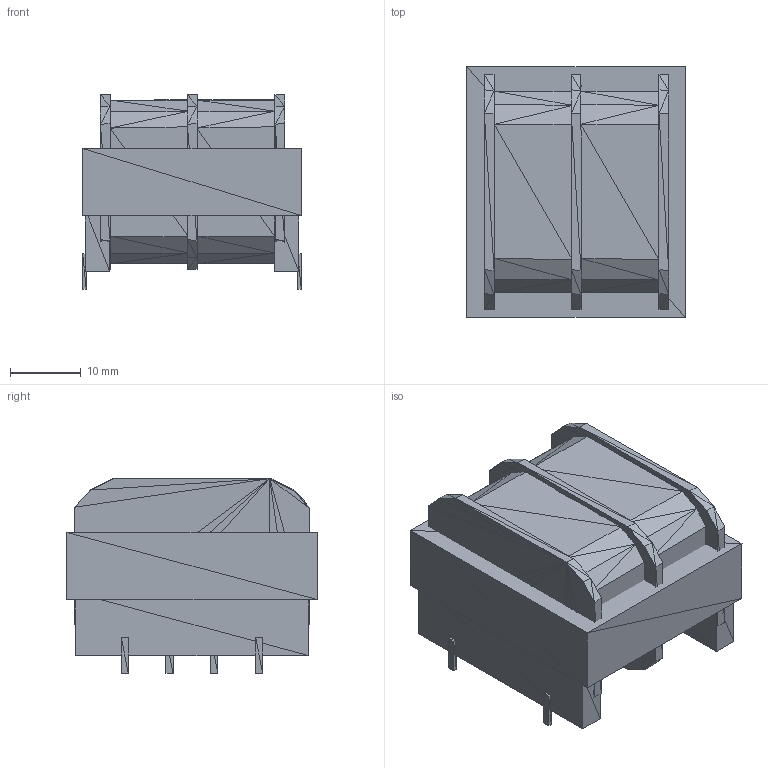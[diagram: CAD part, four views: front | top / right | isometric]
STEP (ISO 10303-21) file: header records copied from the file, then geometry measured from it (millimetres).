
FILE_DESCRIPTION(('HOOPS Exchange Step'),'2;1');
FILE_NAME('***.stp');
FILE_SCHEMA( ('AP242_MANAGED_MODEL_BASED_3D_ENGINEERING_MIM_LF {1 0 10303 442 1 1 4 }') );
Length unit declared in the file: inch
Products named in the file (15): XFRMPCB2S_2; XFRMPCB2S_3; XFRMPCB2S_4; XFRMPCB2S_5; XFRMPCB2S_6; XFRMPCB2S_7; XFRMPCB2S_8; XFRMPCB2S_9; XFRMPCB2S_10; XFRMPCB2S_11; XFRMPCB2S_12; XFRMPCB2S_13; XFRMPCB2S_14; XFRMPCB2S_15; XFRMPCB2S
Assembly tree (14 placements, depth 2):
  XFRMPCB2S
    XFRMPCB2S_2
    XFRMPCB2S_3
    XFRMPCB2S_4
    XFRMPCB2S_5
    XFRMPCB2S_6
    XFRMPCB2S_7
    XFRMPCB2S_8
    XFRMPCB2S_9
    XFRMPCB2S_10
    XFRMPCB2S_11
    XFRMPCB2S_12
    XFRMPCB2S_13
    XFRMPCB2S_14
    XFRMPCB2S_15
Bounding box: 30.99 x 35.56 x 27.64 mm (x, y, z)
Volume: 29835 mm3; surface area: 15113.7 mm2
Topology: 14 solids, 14 shells, 328 faces, 492 edges, 192 vertices
Faces by surface type: plane 328
Entity records: 7096 total; most frequent: DIRECTION 1208, CARTESIAN_POINT 1042, ORIENTED_EDGE 984, VECTOR 492, LINE 492, EDGE_CURVE 492, AXIS2_PLACEMENT_3D 358, PLANE 328
